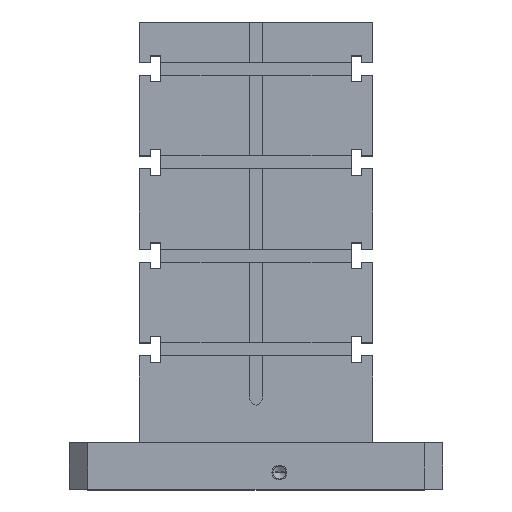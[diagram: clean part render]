
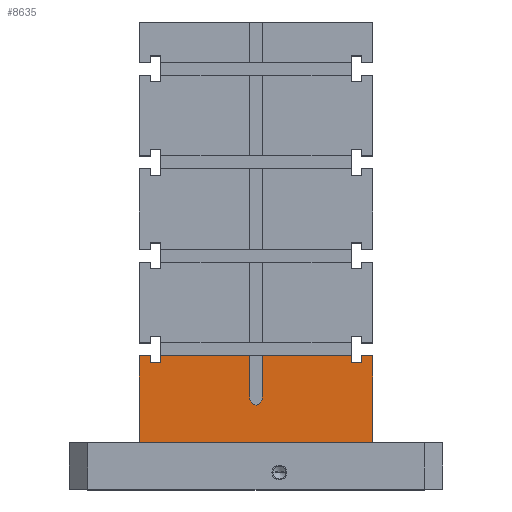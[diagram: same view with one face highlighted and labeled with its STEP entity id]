
A CAD part, top view. The second image highlights one B-rep face of the part: STEP entity #8635.
In plain terms, the highlighted planar face has unit normal (0, 0, 1).
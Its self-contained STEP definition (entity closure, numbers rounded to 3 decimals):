
#239=DIRECTION('',(1.,0.,0.));
#240=VECTOR('',#239,250.);
#241=CARTESIAN_POINT('',(-125.,25.,125.));
#242=LINE('',#241,#240);
#695=DIRECTION('',(0.,-1.,0.));
#696=VECTOR('',#695,44.);
#697=CARTESIAN_POINT('',(-7.,118.,125.));
#698=LINE('',#697,#696);
#699=DIRECTION('',(0.,-1.,0.));
#700=VECTOR('',#699,44.);
#701=CARTESIAN_POINT('',(7.,118.,125.));
#702=LINE('',#701,#700);
#703=DIRECTION('',(1.,0.,0.));
#704=VECTOR('',#703,95.);
#705=CARTESIAN_POINT('',(7.,118.,125.));
#706=LINE('',#705,#704);
#707=DIRECTION('',(0.,1.,0.));
#708=VECTOR('',#707,7.);
#709=CARTESIAN_POINT('',(102.,111.,125.));
#710=LINE('',#709,#708);
#711=DIRECTION('',(-1.,0.,0.));
#712=VECTOR('',#711,11.);
#713=CARTESIAN_POINT('',(113.,111.,125.));
#714=LINE('',#713,#712);
#715=DIRECTION('',(0.,-1.,0.));
#716=VECTOR('',#715,7.);
#717=CARTESIAN_POINT('',(113.,118.,125.));
#718=LINE('',#717,#716);
#719=DIRECTION('',(-1.,0.,0.));
#720=VECTOR('',#719,12.);
#721=CARTESIAN_POINT('',(125.,118.,125.));
#722=LINE('',#721,#720);
#723=DIRECTION('',(0.,1.,0.));
#724=VECTOR('',#723,93.);
#725=CARTESIAN_POINT('',(-125.,25.,125.));
#726=LINE('',#725,#724);
#727=DIRECTION('',(1.,0.,0.));
#728=VECTOR('',#727,12.);
#729=CARTESIAN_POINT('',(-125.,118.,125.));
#730=LINE('',#729,#728);
#731=DIRECTION('',(0.,-1.,0.));
#732=VECTOR('',#731,7.);
#733=CARTESIAN_POINT('',(-113.,118.,125.));
#734=LINE('',#733,#732);
#735=DIRECTION('',(1.,0.,0.));
#736=VECTOR('',#735,11.);
#737=CARTESIAN_POINT('',(-113.,111.,125.));
#738=LINE('',#737,#736);
#739=DIRECTION('',(0.,1.,0.));
#740=VECTOR('',#739,7.);
#741=CARTESIAN_POINT('',(-102.,111.,125.));
#742=LINE('',#741,#740);
#743=DIRECTION('',(1.,0.,0.));
#744=VECTOR('',#743,95.);
#745=CARTESIAN_POINT('',(-102.,118.,125.));
#746=LINE('',#745,#744);
#2365=DIRECTION('',(0.,1.,0.));
#2366=VECTOR('',#2365,93.);
#2367=CARTESIAN_POINT('',(125.,25.,125.));
#2368=LINE('',#2367,#2366);
#4483=CARTESIAN_POINT('',(2.,74.,125.));
#4484=DIRECTION('',(0.,0.,-1.));
#4485=DIRECTION('',(-0.222,-0.975,0.));
#4486=AXIS2_PLACEMENT_3D('',#4483,#4484,#4485);
#4488=CARTESIAN_POINT('',(-2.,74.,125.));
#4489=DIRECTION('',(0.,0.,-1.));
#4490=DIRECTION('',(1.,0.,0.));
#4491=AXIS2_PLACEMENT_3D('',#4488,#4489,#4490);
#6049=CARTESIAN_POINT('',(-125.,25.,125.));
#6050=CARTESIAN_POINT('',(125.,25.,125.));
#6051=VERTEX_POINT('',#6049);
#6052=VERTEX_POINT('',#6050);
#6251=CARTESIAN_POINT('',(-125.,118.,125.));
#6252=CARTESIAN_POINT('',(-113.,118.,125.));
#6253=VERTEX_POINT('',#6251);
#6254=VERTEX_POINT('',#6252);
#6255=CARTESIAN_POINT('',(-113.,111.,125.));
#6256=VERTEX_POINT('',#6255);
#6257=CARTESIAN_POINT('',(-102.,111.,125.));
#6258=VERTEX_POINT('',#6257);
#6347=CARTESIAN_POINT('',(125.,118.,125.));
#6348=CARTESIAN_POINT('',(113.,118.,125.));
#6349=VERTEX_POINT('',#6347);
#6350=VERTEX_POINT('',#6348);
#6351=CARTESIAN_POINT('',(113.,111.,125.));
#6352=VERTEX_POINT('',#6351);
#6353=CARTESIAN_POINT('',(102.,111.,125.));
#6354=VERTEX_POINT('',#6353);
#6451=CARTESIAN_POINT('',(-102.,118.,125.));
#6453=VERTEX_POINT('',#6451);
#6483=CARTESIAN_POINT('',(102.,118.,125.));
#6485=VERTEX_POINT('',#6483);
#7535=CARTESIAN_POINT('',(7.,118.,125.));
#7537=VERTEX_POINT('',#7535);
#7541=CARTESIAN_POINT('',(-7.,118.,125.));
#7542=VERTEX_POINT('',#7541);
#7607=CARTESIAN_POINT('',(-7.,74.,125.));
#7609=VERTEX_POINT('',#7607);
#7613=CARTESIAN_POINT('',(7.,74.,125.));
#7614=VERTEX_POINT('',#7613);
#7617=CARTESIAN_POINT('',(0.,65.225,125.));
#7618=VERTEX_POINT('',#7617);
#8595=CARTESIAN_POINT('',(-125.,25.,125.));
#8596=DIRECTION('',(0.,0.,1.));
#8597=DIRECTION('',(1.,0.,0.));
#8598=AXIS2_PLACEMENT_3D('',#8595,#8596,#8597);
#8599=PLANE('',#8598);
#8601=ORIENTED_EDGE('',*,*,#8600,.T.);
#8603=ORIENTED_EDGE('',*,*,#8602,.F.);
#8605=ORIENTED_EDGE('',*,*,#8604,.F.);
#8607=ORIENTED_EDGE('',*,*,#8606,.F.);
#8609=ORIENTED_EDGE('',*,*,#8608,.T.);
#8611=ORIENTED_EDGE('',*,*,#8610,.F.);
#8613=ORIENTED_EDGE('',*,*,#8612,.F.);
#8615=ORIENTED_EDGE('',*,*,#8614,.F.);
#8617=ORIENTED_EDGE('',*,*,#8616,.F.);
#8619=ORIENTED_EDGE('',*,*,#8618,.F.);
#8620=ORIENTED_EDGE('',*,*,#8296,.F.);
#8622=ORIENTED_EDGE('',*,*,#8621,.T.);
#8624=ORIENTED_EDGE('',*,*,#8623,.T.);
#8626=ORIENTED_EDGE('',*,*,#8625,.T.);
#8628=ORIENTED_EDGE('',*,*,#8627,.T.);
#8630=ORIENTED_EDGE('',*,*,#8629,.T.);
#8632=ORIENTED_EDGE('',*,*,#8631,.T.);
#8633=EDGE_LOOP('',(#8601,#8603,#8605,#8607,#8609,#8611,#8613,#8615,#8617,#8619,
#8620,#8622,#8624,#8626,#8628,#8630,#8632));
#8634=FACE_OUTER_BOUND('',#8633,.F.);
#8635=ADVANCED_FACE('',(#8634),#8599,.T.);
#4487=CIRCLE('',#4486,9.);
#4492=CIRCLE('',#4491,9.);
#8296=EDGE_CURVE('',#6051,#6052,#242,.T.);
#8600=EDGE_CURVE('',#7542,#7609,#698,.T.);
#8602=EDGE_CURVE('',#7618,#7609,#4487,.T.);
#8604=EDGE_CURVE('',#7614,#7618,#4492,.T.);
#8606=EDGE_CURVE('',#7537,#7614,#702,.T.);
#8608=EDGE_CURVE('',#7537,#6485,#706,.T.);
#8610=EDGE_CURVE('',#6354,#6485,#710,.T.);
#8612=EDGE_CURVE('',#6352,#6354,#714,.T.);
#8614=EDGE_CURVE('',#6350,#6352,#718,.T.);
#8616=EDGE_CURVE('',#6349,#6350,#722,.T.);
#8618=EDGE_CURVE('',#6052,#6349,#2368,.T.);
#8621=EDGE_CURVE('',#6051,#6253,#726,.T.);
#8623=EDGE_CURVE('',#6253,#6254,#730,.T.);
#8625=EDGE_CURVE('',#6254,#6256,#734,.T.);
#8627=EDGE_CURVE('',#6256,#6258,#738,.T.);
#8629=EDGE_CURVE('',#6258,#6453,#742,.T.);
#8631=EDGE_CURVE('',#6453,#7542,#746,.T.);
